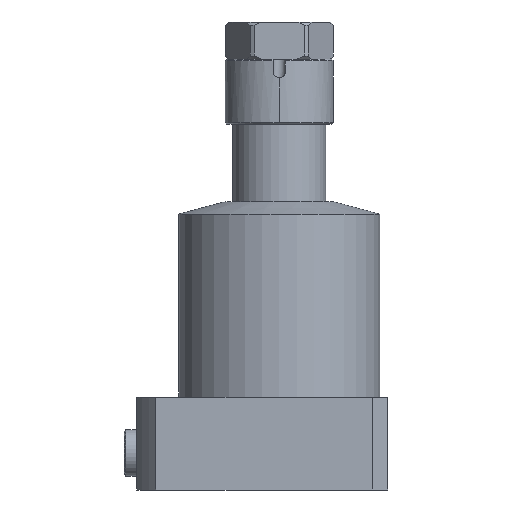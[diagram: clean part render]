
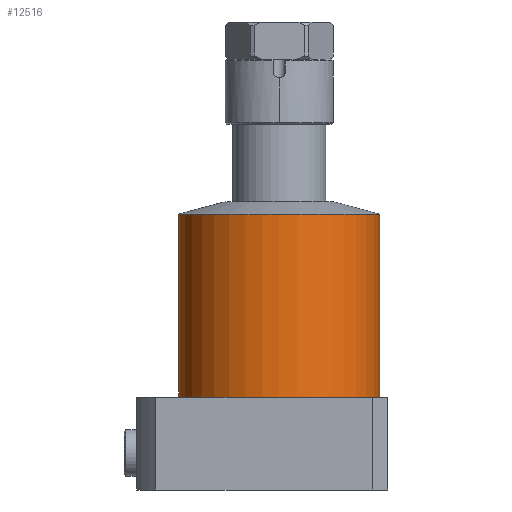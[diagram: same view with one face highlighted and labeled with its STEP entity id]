
A CAD part, front view. The second image highlights one B-rep face of the part: STEP entity #12516.
In plain terms, the highlighted cylindrical face has radius 32.5 mm (diameter 65 mm), a partial arc.
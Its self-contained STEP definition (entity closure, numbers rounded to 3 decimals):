
#236 = LINE ( 'NONE', #11732, #14057 ) ;
#509 = ORIENTED_EDGE ( 'NONE', *, *, #721, .F. ) ;
#721 = EDGE_CURVE ( 'NONE', #1957, #12438, #12533, .T. ) ;
#1456 = AXIS2_PLACEMENT_3D ( 'NONE', #8095, #17865, #9480 ) ;
#1652 = CARTESIAN_POINT ( 'NONE',  ( -32.5, 0., 93. ) ) ;
#1957 = VERTEX_POINT ( 'NONE', #6366 ) ;
#2768 = EDGE_CURVE ( 'NONE', #13469, #12438, #8197, .T. ) ;
#3527 = AXIS2_PLACEMENT_3D ( 'NONE', #7005, #16737, #5619 ) ;
#5205 = CARTESIAN_POINT ( 'NONE',  ( -32.5, 0., 88.981 ) ) ;
#5619 = DIRECTION ( 'NONE',  ( -1., 0., 0. ) ) ;
#6366 = CARTESIAN_POINT ( 'NONE',  ( 32.5, 0., 30. ) ) ;
#6548 = CARTESIAN_POINT ( 'NONE',  ( 0., 0., 30. ) ) ;
#7005 = CARTESIAN_POINT ( 'NONE',  ( 0., 0., 93. ) ) ;
#7199 = FACE_OUTER_BOUND ( 'NONE', #15480, .T. ) ;
#7334 = CIRCLE ( 'NONE', #1456, 32.5 ) ;
#7912 = DIRECTION ( 'NONE',  ( -1., 0., 0. ) ) ;
#8095 = CARTESIAN_POINT ( 'NONE',  ( 0., 0., 88.981 ) ) ;
#8197 = LINE ( 'NONE', #1652, #11422 ) ;
#9480 = DIRECTION ( 'NONE',  ( -1., 0., 0. ) ) ;
#10424 = CYLINDRICAL_SURFACE ( 'NONE', #3527, 32.5 ) ;
#10917 = VERTEX_POINT ( 'NONE', #11683 ) ;
#11038 = CARTESIAN_POINT ( 'NONE',  ( -32.5, 0., 30. ) ) ;
#11422 = VECTOR ( 'NONE', #12688, 1000. ) ;
#11438 = DIRECTION ( 'NONE',  ( 0., 0., -1. ) ) ;
#11683 = CARTESIAN_POINT ( 'NONE',  ( 32.5, 0., 88.981 ) ) ;
#11732 = CARTESIAN_POINT ( 'NONE',  ( 32.5, 0., 93. ) ) ;
#11833 = ORIENTED_EDGE ( 'NONE', *, *, #15700, .F. ) ;
#12116 = ORIENTED_EDGE ( 'NONE', *, *, #17720, .F. ) ;
#12438 = VERTEX_POINT ( 'NONE', #11038 ) ;
#12500 = ORIENTED_EDGE ( 'NONE', *, *, #2768, .T. ) ;
#12516 = ADVANCED_FACE ( 'NONE', ( #7199 ), #10424, .T. ) ;
#12533 = CIRCLE ( 'NONE', #16849, 32.5 ) ;
#12688 = DIRECTION ( 'NONE',  ( 0., 0., -1. ) ) ;
#13469 = VERTEX_POINT ( 'NONE', #5205 ) ;
#14057 = VECTOR ( 'NONE', #11438, 1000. ) ;
#15480 = EDGE_LOOP ( 'NONE', ( #12116, #11833, #12500, #509 ) ) ;
#15700 = EDGE_CURVE ( 'NONE', #13469, #10917, #7334, .T. ) ;
#16277 = DIRECTION ( 'NONE',  ( 0., 0., -1. ) ) ;
#16737 = DIRECTION ( 'NONE',  ( 0., 0., -1. ) ) ;
#16849 = AXIS2_PLACEMENT_3D ( 'NONE', #6548, #16277, #7912 ) ;
#17720 = EDGE_CURVE ( 'NONE', #10917, #1957, #236, .T. ) ;
#17865 = DIRECTION ( 'NONE',  ( 0., 0., 1. ) ) ;
